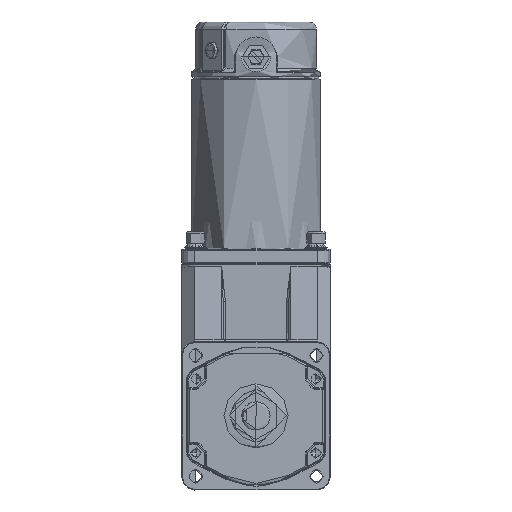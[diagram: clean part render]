
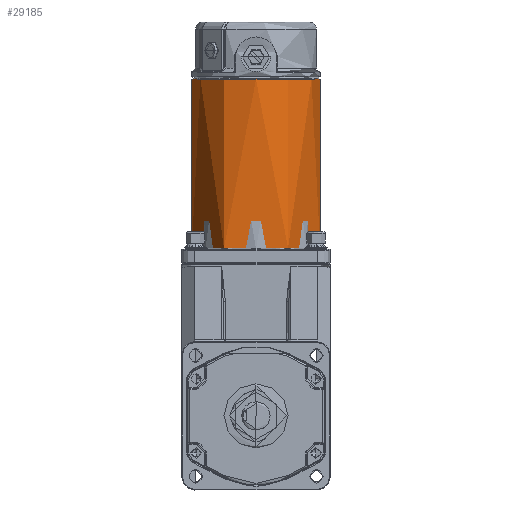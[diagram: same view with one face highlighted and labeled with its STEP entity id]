
A CAD part, front view. The second image highlights one B-rep face of the part: STEP entity #29185.
In plain terms, the highlighted cylindrical face has radius 45 mm (diameter 90 mm), a partial arc.
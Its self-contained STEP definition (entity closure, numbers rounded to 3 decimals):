
#1680 = CARTESIAN_POINT ( 'NONE',  ( -7.759, 0., 0. ) ) ;
#2444 = CARTESIAN_POINT ( 'NONE',  ( 37.241, 0.828, 0. ) ) ;
#3004 = VERTEX_POINT ( 'NONE', #88590 ) ;
#3566 = LINE ( 'NONE', #10992, #11805 ) ;
#3760 = VECTOR ( 'NONE', #78237, 1000. ) ;
#4692 = CARTESIAN_POINT ( 'NONE',  ( -7.759, 0., 45. ) ) ;
#5306 = DIRECTION ( 'NONE',  ( 0., 0., 1. ) ) ;
#6226 = ORIENTED_EDGE ( 'NONE', *, *, #78557, .T. ) ;
#9317 = CIRCLE ( 'NONE', #82211, 45. ) ;
#10512 = VERTEX_POINT ( 'NONE', #121660 ) ;
#10992 = CARTESIAN_POINT ( 'NONE',  ( -7.759, 0., -45. ) ) ;
#11553 = ORIENTED_EDGE ( 'NONE', *, *, #124957, .F. ) ;
#11805 = VECTOR ( 'NONE', #53384, 1000. ) ;
#12370 = ORIENTED_EDGE ( 'NONE', *, *, #97755, .T. ) ;
#15847 = EDGE_LOOP ( 'NONE', ( #80604, #12370, #6226, #11553, #63248 ) ) ;
#16265 = VERTEX_POINT ( 'NONE', #27889 ) ;
#19254 = EDGE_CURVE ( 'NONE', #10512, #40733, #56775, .T. ) ;
#23847 = AXIS2_PLACEMENT_3D ( 'NONE', #72269, #28496, #40143 ) ;
#27347 = VERTEX_POINT ( 'NONE', #59397 ) ;
#27889 = CARTESIAN_POINT ( 'NONE',  ( -7.759, 119.172, 45. ) ) ;
#28496 = DIRECTION ( 'NONE',  ( 0., -1., 0. ) ) ;
#29185 = ADVANCED_FACE ( 'NONE', ( #86817 ), #80214, .T. ) ;
#34626 = CARTESIAN_POINT ( 'NONE',  ( -7.759, 0.828, 0. ) ) ;
#40143 = DIRECTION ( 'NONE',  ( 0., 0., 1. ) ) ;
#40733 = VERTEX_POINT ( 'NONE', #2444 ) ;
#42924 = EDGE_CURVE ( 'NONE', #40733, #3004, #9317, .T. ) ;
#44625 = CIRCLE ( 'NONE', #23847, 45. ) ;
#53384 = DIRECTION ( 'NONE',  ( 0., 1., 0. ) ) ;
#53725 = LINE ( 'NONE', #4692, #3760 ) ;
#54267 = DIRECTION ( 'NONE',  ( 0., 1., 0. ) ) ;
#56054 = DIRECTION ( 'NONE',  ( 0., 1., 0. ) ) ;
#56775 = CIRCLE ( 'NONE', #95102, 45. ) ;
#59397 = CARTESIAN_POINT ( 'NONE',  ( -7.759, 119.172, -45. ) ) ;
#61914 = AXIS2_PLACEMENT_3D ( 'NONE', #1680, #118053, #86837 ) ;
#63248 = ORIENTED_EDGE ( 'NONE', *, *, #19254, .T. ) ;
#72269 = CARTESIAN_POINT ( 'NONE',  ( -7.759, 119.172, 0. ) ) ;
#76111 = DIRECTION ( 'NONE',  ( 0., 0., 1. ) ) ;
#78237 = DIRECTION ( 'NONE',  ( 0., 1., 0. ) ) ;
#78557 = EDGE_CURVE ( 'NONE', #27347, #16265, #44625, .T. ) ;
#80214 = CYLINDRICAL_SURFACE ( 'NONE', #61914, 45. ) ;
#80604 = ORIENTED_EDGE ( 'NONE', *, *, #42924, .T. ) ;
#82211 = AXIS2_PLACEMENT_3D ( 'NONE', #107774, #54267, #76111 ) ;
#86817 = FACE_OUTER_BOUND ( 'NONE', #15847, .T. ) ;
#86837 = DIRECTION ( 'NONE',  ( 0., 0., 1. ) ) ;
#88590 = CARTESIAN_POINT ( 'NONE',  ( -7.759, 0.828, -45. ) ) ;
#95102 = AXIS2_PLACEMENT_3D ( 'NONE', #34626, #56054, #5306 ) ;
#97755 = EDGE_CURVE ( 'NONE', #3004, #27347, #3566, .T. ) ;
#107774 = CARTESIAN_POINT ( 'NONE',  ( -7.759, 0.828, 0. ) ) ;
#118053 = DIRECTION ( 'NONE',  ( 0., 1., 0. ) ) ;
#121660 = CARTESIAN_POINT ( 'NONE',  ( -7.759, 0.828, 45. ) ) ;
#124957 = EDGE_CURVE ( 'NONE', #10512, #16265, #53725, .T. ) ;
